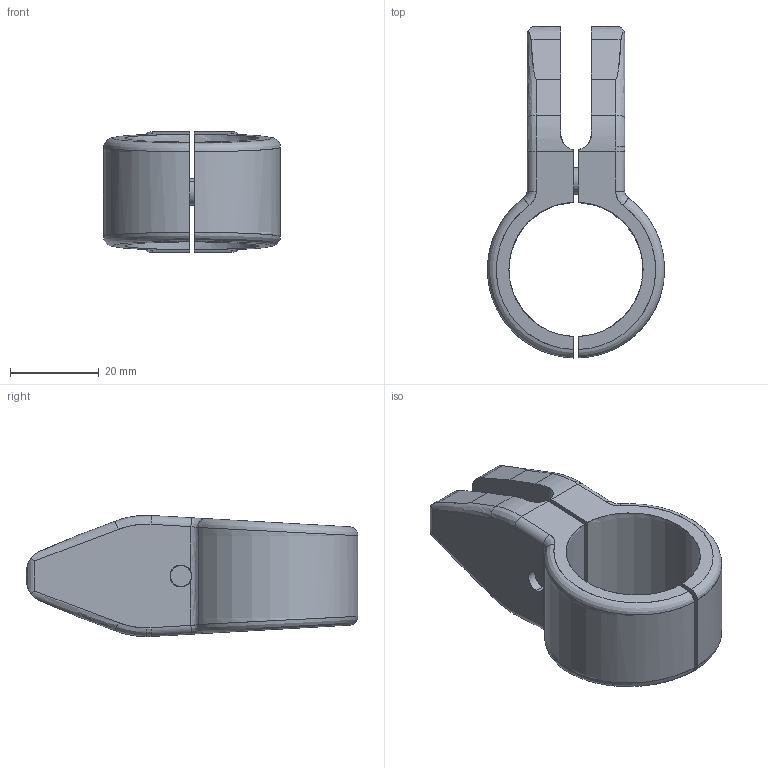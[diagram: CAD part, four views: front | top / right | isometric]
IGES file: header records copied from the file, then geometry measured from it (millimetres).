
Start section: SolidWorks IGES file using analytic representation for surfaces
Global section: file name: C:\Users\Gerard\OneDrive - Tecnodin, S.L\Escritorio\30 mm Verbinder im step. Format\31000410052.IGS; native system: SolidWorks 2016; preprocessor: SolidWorks 2016; author: Gerard; date: 240902.115205; units: millimetre
Bounding box: 40 x 74.99 x 27.4 mm (x, y, z)
Surface area: 11408.8 mm2 (no closed solid volume)
Topology: 0 solids, 0 shells, 94 faces, 1402 edges, 1400 vertices
Faces by surface type: revolution 49, bspline 45
